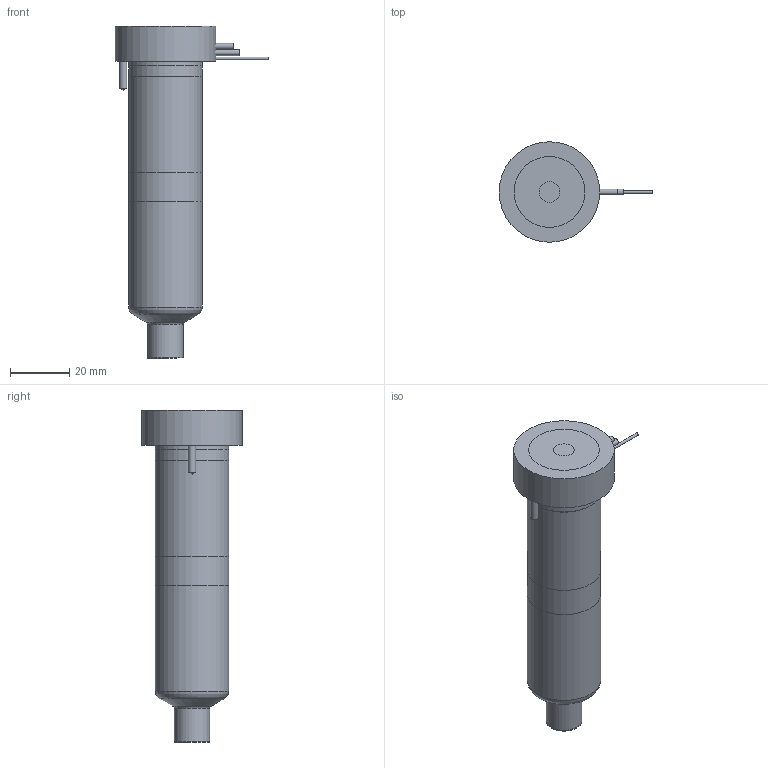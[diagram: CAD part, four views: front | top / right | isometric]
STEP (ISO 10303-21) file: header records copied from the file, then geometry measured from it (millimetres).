
FILE_DESCRIPTION(/* description */ (''),/* implementation_level */ '2;1');
FILE_NAME(/* name */ 'MXTVSN-MXIVSN-MXOVSN16095_250C_b',/* time_stamp */ '2007-01-18T09:56:15+13:00',/* author */ (''),/* organization */ (''),/* preprocessor_version */ 'ST-DEVELOPER v9',/* originating_system */ 'UGS - NX 4.0',/* authorisation */ '');
FILE_SCHEMA (('CONFIG_CONTROL_DESIGN'));
Length unit declared in the file: millimetre
Products named in the file (1): MXTVSN-MXIVSN-MXOVSN16095_250C_b
Bounding box: 51.95 x 34 x 112.33 mm (x, y, z)
Volume: 97600.1 mm3; surface area: 21579.9 mm2
Topology: 7 solids, 7 shells, 80 faces, 151 edges, 97 vertices
Faces by surface type: plane 35, cylinder 27, cone 10, torus 7, bspline 1
Full cylindrical faces by diameter (mm): 1 x3, 2 x2, 2.5 x3, 7 x1, 11.61 x1, 12.01 x2, 14.8 x1, 20.8 x1, 24.9 x2, 25 x2, 34 x1
Entity records: 1922 total; most frequent: CARTESIAN_POINT 378, DIRECTION 330, ORIENTED_EDGE 216, AXIS2_PLACEMENT_3D 152, EDGE_LOOP 126, EDGE_CURVE 108, VERTEX_POINT 89, ADVANCED_FACE 80
